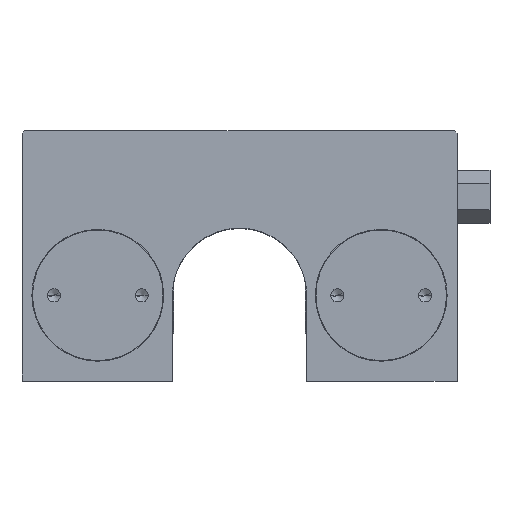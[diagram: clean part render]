
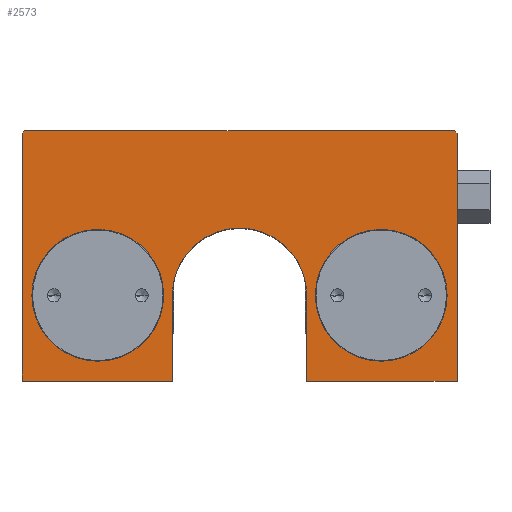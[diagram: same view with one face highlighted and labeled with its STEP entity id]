
A CAD part, top view. The second image highlights one B-rep face of the part: STEP entity #2573.
In plain terms, the highlighted planar face has unit normal (0, 0, 1).
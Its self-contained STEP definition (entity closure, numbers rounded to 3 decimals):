
#953 = EDGE_CURVE( '', #1109, #2037, #2696, .T. );
#1015 = VERTEX_POINT( '', #2763 );
#1051 = EDGE_CURVE( '', #1353, #1115, #2800, .T. );
#1061 = EDGE_CURVE( '', #1115, #1651, #2810, .T. );
#1109 = VERTEX_POINT( '', #2866 );
#1115 = VERTEX_POINT( '', #2872 );
#1209 = EDGE_CURVE( '', #1995, #1921, #2977, .T. );
#1271 = EDGE_CURVE( '', #2379, #2499, #3046, .T. );
#1353 = VERTEX_POINT( '', #3136 );
#1385 = VERTEX_POINT( '', #3173 );
#1651 = VERTEX_POINT( '', #3477 );
#1701 = EDGE_CURVE( '', #1651, #2581, #3533, .T. );
#1705 = EDGE_CURVE( '', #2037, #2483, #3538, .T. );
#1825 = EDGE_CURVE( '', #2483, #2031, #3671, .T. );
#1921 = VERTEX_POINT( '', #3776 );
#1953 = EDGE_CURVE( '', #1385, #1015, #3809, .T. );
#1995 = VERTEX_POINT( '', #3855 );
#2031 = VERTEX_POINT( '', #3893 );
#2037 = VERTEX_POINT( '', #3899 );
#2089 = EDGE_CURVE( '', #1015, #1385, #3958, .T. );
#2095 = EDGE_CURVE( '', #1921, #1995, #3965, .T. );
#2281 = EDGE_CURVE( '', #2499, #1353, #4175, .T. );
#2295 = EDGE_CURVE( '', #2581, #1109, #4194, .T. );
#2379 = VERTEX_POINT( '', #4295 );
#2483 = VERTEX_POINT( '', #4418 );
#2495 = EDGE_CURVE( '', #2031, #2379, #4432, .T. );
#2499 = VERTEX_POINT( '', #4436 );
#2573 = ADVANCED_FACE( '', ( #4519, #4520, #4521 ), #4522, .F. );
#2581 = VERTEX_POINT( '', #4531 );
#2696 = LINE( '', #4696, #4697 );
#2763 = CARTESIAN_POINT( '', ( -11.5, 13., 19. ) );
#2800 = LINE( '', #4840, #4841 );
#2810 = LINE( '', #4854, #4855 );
#2866 = CARTESIAN_POINT( '', ( -10.2, 13., 19. ) );
#2872 = CARTESIAN_POINT( '', ( 33., 0., 19. ) );
#2977 = CIRCLE( '', #5083, 10. );
#3046 = LINE( '', #5166, #5167 );
#3136 = CARTESIAN_POINT( '', ( 33., 37.6, 19. ) );
#3173 = CARTESIAN_POINT( '', ( -31.5, 13., 19. ) );
#3477 = CARTESIAN_POINT( '', ( 10.2, 0., 19. ) );
#3533 = LINE( '', #5867, #5868 );
#3538 = LINE( '', #5874, #5875 );
#3671 = LINE( '', #6062, #6063 );
#3776 = CARTESIAN_POINT( '', ( 31.5, 13., 19. ) );
#3809 = CIRCLE( '', #6254, 10. );
#3855 = CARTESIAN_POINT( '', ( 11.5, 13., 19. ) );
#3893 = CARTESIAN_POINT( '', ( -33., 37.6, 19. ) );
#3899 = CARTESIAN_POINT( '', ( -10.2, 0., 19. ) );
#3958 = CIRCLE( '', #6491, 10. );
#3965 = CIRCLE( '', #6501, 10. );
#4175 = LINE( '', #6800, #6801 );
#4194 = CIRCLE( '', #6825, 10.2 );
#4295 = CARTESIAN_POINT( '', ( -32.6, 38., 19. ) );
#4418 = CARTESIAN_POINT( '', ( -33., 0., 19. ) );
#4432 = LINE( '', #7167, #7168 );
#4436 = CARTESIAN_POINT( '', ( 32.6, 38., 19. ) );
#4519 = FACE_BOUND( '', #7281, .T. );
#4520 = FACE_BOUND( '', #7282, .T. );
#4521 = FACE_OUTER_BOUND( '', #7283, .T. );
#4522 = PLANE( '', #7284 );
#4531 = CARTESIAN_POINT( '', ( 10.2, 13., 19. ) );
#4696 = CARTESIAN_POINT( '', ( -10.2, 13., 19. ) );
#4697 = VECTOR( '', #7435, 1. );
#4840 = CARTESIAN_POINT( '', ( 33., 37.6, 19. ) );
#4841 = VECTOR( '', #7525, 1. );
#4854 = CARTESIAN_POINT( '', ( 33., 0., 19. ) );
#4855 = VECTOR( '', #7532, 1. );
#5083 = AXIS2_PLACEMENT_3D( '', #7713, #7714, #7715 );
#5166 = CARTESIAN_POINT( '', ( -32.6, 38., 19. ) );
#5167 = VECTOR( '', #7779, 1. );
#5867 = CARTESIAN_POINT( '', ( 10.2, 0., 19. ) );
#5868 = VECTOR( '', #8380, 1. );
#5874 = CARTESIAN_POINT( '', ( -10.2, 0., 19. ) );
#5875 = VECTOR( '', #8389, 1. );
#6062 = CARTESIAN_POINT( '', ( -33., 0., 19. ) );
#6063 = VECTOR( '', #8558, 1. );
#6254 = AXIS2_PLACEMENT_3D( '', #8666, #8667, #8668 );
#6491 = AXIS2_PLACEMENT_3D( '', #8828, #8829, #8830 );
#6501 = AXIS2_PLACEMENT_3D( '', #8840, #8841, #8842 );
#6800 = CARTESIAN_POINT( '', ( 32.6, 38., 19. ) );
#6801 = VECTOR( '', #9097, 1. );
#6825 = AXIS2_PLACEMENT_3D( '', #9132, #9133, #9134 );
#7167 = CARTESIAN_POINT( '', ( -33., 37.6, 19. ) );
#7168 = VECTOR( '', #9442, 1. );
#7281 = EDGE_LOOP( '', ( #9537, #9538 ) );
#7282 = EDGE_LOOP( '', ( #9539, #9540 ) );
#7283 = EDGE_LOOP( '', ( #9541, #9542, #9543, #9544, #9545, #9546, #9547, #9548, #9549, #9550 ) );
#7284 = AXIS2_PLACEMENT_3D( '', #9551, #9552, #9553 );
#7435 = DIRECTION( '', ( 0., -1., 0. ) );
#7525 = DIRECTION( '', ( 0., -1., 0. ) );
#7532 = DIRECTION( '', ( -1., 0., 0. ) );
#7713 = CARTESIAN_POINT( '', ( 21.5, 13., 19. ) );
#7714 = DIRECTION( '', ( 0., 0., -1. ) );
#7715 = DIRECTION( '', ( -1., 0., 0. ) );
#7779 = DIRECTION( '', ( 1., 0., 0. ) );
#8380 = DIRECTION( '', ( 0., 1., 0. ) );
#8389 = DIRECTION( '', ( -1., 0., 0. ) );
#8558 = DIRECTION( '', ( 0., 1., 0. ) );
#8666 = CARTESIAN_POINT( '', ( -21.5, 13., 19. ) );
#8667 = DIRECTION( '', ( 0., 0., -1. ) );
#8668 = DIRECTION( '', ( -1., 0., 0. ) );
#8828 = CARTESIAN_POINT( '', ( -21.5, 13., 19. ) );
#8829 = DIRECTION( '', ( 0., 0., -1. ) );
#8830 = DIRECTION( '', ( -1., 0., 0. ) );
#8840 = CARTESIAN_POINT( '', ( 21.5, 13., 19. ) );
#8841 = DIRECTION( '', ( 0., 0., -1. ) );
#8842 = DIRECTION( '', ( -1., 0., 0. ) );
#9097 = DIRECTION( '', ( 0.707, -0.707, 0. ) );
#9132 = CARTESIAN_POINT( '', ( 0., 13., 19. ) );
#9133 = DIRECTION( '', ( 0., 0., 1. ) );
#9134 = DIRECTION( '', ( 1., 0., 0. ) );
#9442 = DIRECTION( '', ( 0.707, 0.707, 0. ) );
#9537 = ORIENTED_EDGE( '', *, *, #2089, .T. );
#9538 = ORIENTED_EDGE( '', *, *, #1953, .T. );
#9539 = ORIENTED_EDGE( '', *, *, #2095, .T. );
#9540 = ORIENTED_EDGE( '', *, *, #1209, .T. );
#9541 = ORIENTED_EDGE( '', *, *, #1061, .F. );
#9542 = ORIENTED_EDGE( '', *, *, #1051, .F. );
#9543 = ORIENTED_EDGE( '', *, *, #2281, .F. );
#9544 = ORIENTED_EDGE( '', *, *, #1271, .F. );
#9545 = ORIENTED_EDGE( '', *, *, #2495, .F. );
#9546 = ORIENTED_EDGE( '', *, *, #1825, .F. );
#9547 = ORIENTED_EDGE( '', *, *, #1705, .F. );
#9548 = ORIENTED_EDGE( '', *, *, #953, .F. );
#9549 = ORIENTED_EDGE( '', *, *, #2295, .F. );
#9550 = ORIENTED_EDGE( '', *, *, #1701, .F. );
#9551 = CARTESIAN_POINT( '', ( 0., 0., 19. ) );
#9552 = DIRECTION( '', ( 0., 0., -1. ) );
#9553 = DIRECTION( '', ( -1., 0., 0. ) );
